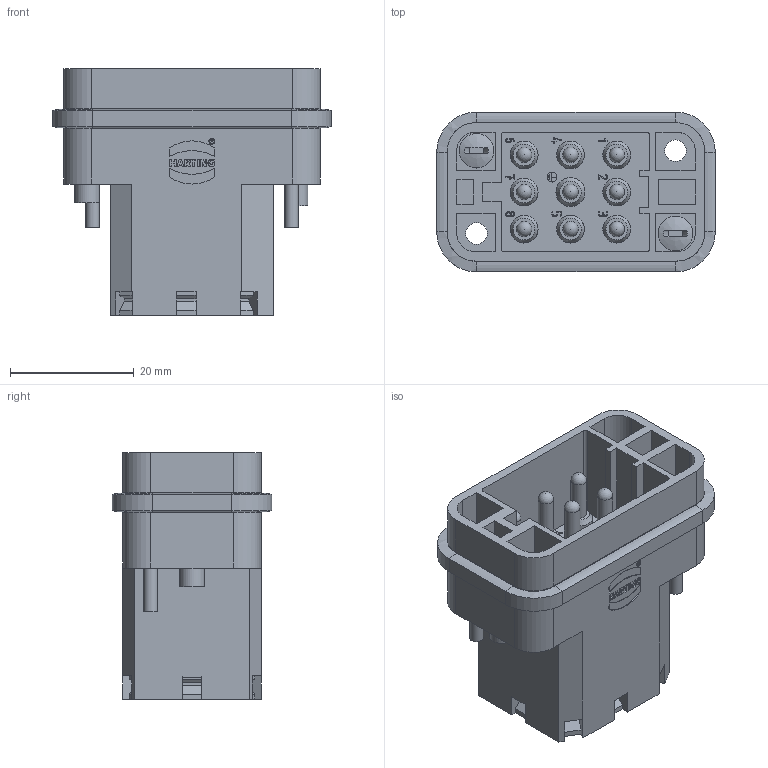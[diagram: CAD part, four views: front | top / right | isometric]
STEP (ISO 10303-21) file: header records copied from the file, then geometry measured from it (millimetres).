
FILE_DESCRIPTION(/* description */ (''),/* implementation_level */ '2;1');
FILE_NAME(/* name */ '100623217ugm000_b.stp',/* time_stamp */ '2022-03-11T21:42:43+01:00',/* author */ (''),/* organization */ (''),/* preprocessor_version */ 'ST-DEVELOPER v16.7',/* originating_system */ 'SIEMENS PLM Software NX 1911',/* authorisation */ '');
FILE_SCHEMA (('AUTOMOTIVE_DESIGN { 1 0 10303 214 3 1 1 1 }'));
Length unit declared in the file: millimetre
Products named in the file (1): 100623217ugm000_b
Bounding box: 45.1 x 25.9 x 39.97 mm (x, y, z)
Volume: 18886.2 mm3; surface area: 12804.9 mm2
Topology: 1 solids, 1 shells, 1089 faces, 3586 edges, 3130 vertices
Faces by surface type: plane 643, extrusion 254, cylinder 134, cone 31, bspline 18, sphere 9
Full cylindrical faces by diameter (mm): 0.797 x1, 0.942 x1, 1.56 x2, 1.6 x2, 2.2 x2, 2.3 x9, 2.5 x9, 3.5 x3, 3.8 x9, 4 x1, 4.5 x8, 4.7 x1, 5.6 x2
Entity records: 47882 total; most frequent: CARTESIAN_POINT 10158, ORIENTED_EDGE 5748, DIRECTION 4834, EDGE_CURVE 2874, VECTOR 2572, LINE 2318, VERTEX_POINT 1965, PRESENTATION_STYLE_ASSIGNMENT 1654
